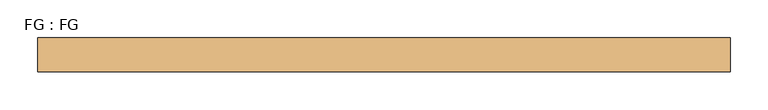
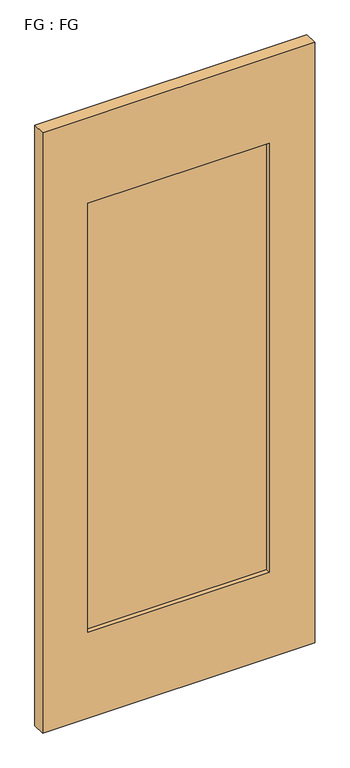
"""IFC4 building model written with IfcOpenShell, lengths in millimetres: door geometry, FG : FG."""

from ifc_helpers import new_model, si_unit, frame, origin, place, context, project, spatial, polyline, outline, extrude, source, transform, mapped, element, save


def fg_fg_d31f3df4(model_context):
    return source(origin(), model_context, "Body", "SweptSolid", [
        extrude(outline(polyline([(304.8, -6.35), (-304.8, -6.35), (-304.8, 0.0), (304.8, 0.0), (304.8, -6.35)])), frame((0.0, 0.0, 304.8), z_axis=(0.0, 0.0, 1.0), x_axis=(1.0, 0.0, 0.0)), (0.0, 0.0, 1.0), 1524.0),
        extrude(outline(polyline([(2133.6, -457.2), (0.0, -457.2), (0.0, 457.2), (2133.6, 457.2), (2133.6, -457.2)]), holes=[polyline([(1828.8, -304.8), (1828.8, 304.8), (304.8, 304.8), (304.8, -304.8), (1828.8, -304.8)])]), frame((0.0, -22.225, 0.0), z_axis=(0.0, 1.0, 0.0), x_axis=(0.0, 0.0, 1.0)), (0.0, 0.0, 1.0), 44.45),
    ])


if __name__ == "__main__":
    model = new_model("IFC4")
    model_context = context("Model", 3, world=origin())
    ifc_project = project(units=[si_unit("LENGTHUNIT", "METRE", prefix="MILLI")], contexts=[model_context])
    site = spatial("IfcSite", under=ifc_project)
    building = spatial("IfcBuilding", under=site)
    placement = place(None, origin())
    fg_fg_shape = fg_fg_d31f3df4(model_context)
    element("IfcDoor", 1, ObjectType="FG : FG", at=placement, inside=building, context=model_context, shape_type="MappedRepresentation", body=[
        mapped(fg_fg_shape, transform((0.0, 0.0, 0.0), x_axis=(1.0, 0.0, 0.0), y_axis=(0.0, 1.0, 0.0), z_axis=(0.0, 0.0, 1.0))),
    ])
    save(model, "model.ifc")
